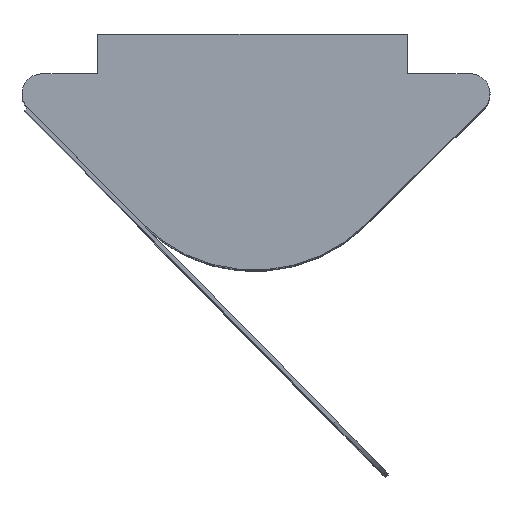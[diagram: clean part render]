
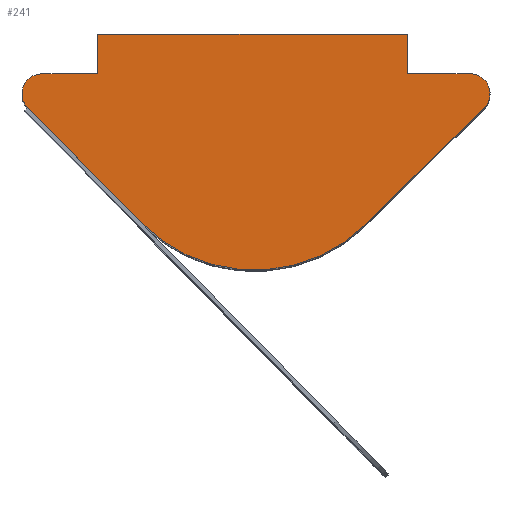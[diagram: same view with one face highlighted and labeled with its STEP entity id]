
A CAD part, top view. The second image highlights one B-rep face of the part: STEP entity #241.
In plain terms, the highlighted planar face has unit normal (0, 0, 1).
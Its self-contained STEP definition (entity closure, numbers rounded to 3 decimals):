
#15 = AXIS2_PLACEMENT_3D ( 'NONE', #2862, #2515, #2154 ) ;
#16 = CARTESIAN_POINT ( 'NONE',  ( -5.306, 6.1, 11. ) ) ;
#23 = DIRECTION ( 'NONE',  ( 0., 0., -1. ) ) ;
#117 = AXIS2_PLACEMENT_3D ( 'NONE', #1457, #1112, #753 ) ;
#157 = CIRCLE ( 'NONE', #15, 0.5 ) ;
#241 = ADVANCED_FACE ( 'NONE', ( #2844 ), #1805, .F. ) ;
#250 = EDGE_CURVE ( 'NONE', #1117, #945, #1011, .T. ) ;
#261 = AXIS2_PLACEMENT_3D ( 'NONE', #1088, #729, #376 ) ;
#301 = DIRECTION ( 'NONE',  ( 0., 1., 0. ) ) ;
#331 = VECTOR ( 'NONE', #778, 1000. ) ;
#356 = ORIENTED_EDGE ( 'NONE', *, *, #2499, .T. ) ;
#376 = DIRECTION ( 'NONE',  ( -1., 0., 0. ) ) ;
#388 = CARTESIAN_POINT ( 'NONE',  ( 0., 0., 11. ) ) ;
#412 = ORIENTED_EDGE ( 'NONE', *, *, #1572, .T. ) ;
#437 = ORIENTED_EDGE ( 'NONE', *, *, #2929, .T. ) ;
#497 = VERTEX_POINT ( 'NONE', #3253 ) ;
#505 = DIRECTION ( 'NONE',  ( -1., 0., 0. ) ) ;
#531 = EDGE_CURVE ( 'NONE', #759, #1853, #2374, .T. ) ;
#608 = VECTOR ( 'NONE', #505, 1000. ) ;
#623 = CARTESIAN_POINT ( 'NONE',  ( -5.662, 5.749, 11. ) ) ;
#661 = CARTESIAN_POINT ( 'NONE',  ( -3.9, 6.6, 11. ) ) ;
#718 = CARTESIAN_POINT ( 'NONE',  ( 3.9, 6.6, 11. ) ) ;
#729 = DIRECTION ( 'NONE',  ( 0., 0., 1. ) ) ;
#750 = EDGE_CURVE ( 'NONE', #945, #1146, #1141, .T. ) ;
#753 = DIRECTION ( 'NONE',  ( -1., 0., 0. ) ) ;
#759 = VERTEX_POINT ( 'NONE', #623 ) ;
#778 = DIRECTION ( 'NONE',  ( -1., 0., 0. ) ) ;
#780 = VECTOR ( 'NONE', #2559, 1000. ) ;
#783 = VERTEX_POINT ( 'NONE', #890 ) ;
#863 = CARTESIAN_POINT ( 'NONE',  ( -3.9, 6.6, 11. ) ) ;
#890 = CARTESIAN_POINT ( 'NONE',  ( -5.806, 6.1, 11. ) ) ;
#922 = VECTOR ( 'NONE', #1520, 1000. ) ;
#933 = CARTESIAN_POINT ( 'NONE',  ( 3.9, 7.6, 11. ) ) ;
#945 = VERTEX_POINT ( 'NONE', #3232 ) ;
#1011 = LINE ( 'NONE', #661, #3020 ) ;
#1057 = DIRECTION ( 'NONE',  ( 1., 0., 0. ) ) ;
#1075 = VECTOR ( 'NONE', #1662, 1000. ) ;
#1077 = AXIS2_PLACEMENT_3D ( 'NONE', #388, #23, #3146 ) ;
#1088 = CARTESIAN_POINT ( 'NONE',  ( 0.043, 5.657, 11. ) ) ;
#1112 = DIRECTION ( 'NONE',  ( 0., 0., 1. ) ) ;
#1117 = VERTEX_POINT ( 'NONE', #1369 ) ;
#1137 = CARTESIAN_POINT ( 'NONE',  ( 6.702, 6.6, 11. ) ) ;
#1141 = LINE ( 'NONE', #1407, #2423 ) ;
#1146 = VERTEX_POINT ( 'NONE', #933 ) ;
#1161 = CARTESIAN_POINT ( 'NONE',  ( -2.807, 2.85, 11. ) ) ;
#1216 = LINE ( 'NONE', #863, #608 ) ;
#1369 = CARTESIAN_POINT ( 'NONE',  ( -3.9, 6.6, 11. ) ) ;
#1407 = CARTESIAN_POINT ( 'NONE',  ( -3.9, 7.6, 11. ) ) ;
#1408 = ORIENTED_EDGE ( 'NONE', *, *, #1585, .T. ) ;
#1457 = CARTESIAN_POINT ( 'NONE',  ( -5.306, 6.1, 11. ) ) ;
#1484 = LINE ( 'NONE', #1137, #331 ) ;
#1520 = DIRECTION ( 'NONE',  ( 0.712, 0.702, 0. ) ) ;
#1521 = CIRCLE ( 'NONE', #261, 4. ) ;
#1527 = ORIENTED_EDGE ( 'NONE', *, *, #250, .F. ) ;
#1572 = EDGE_CURVE ( 'NONE', #2536, #497, #2238, .T. ) ;
#1585 = EDGE_CURVE ( 'NONE', #497, #2125, #157, .T. ) ;
#1605 = ORIENTED_EDGE ( 'NONE', *, *, #1923, .T. ) ;
#1662 = DIRECTION ( 'NONE',  ( 0.702, -0.712, 0. ) ) ;
#1772 = EDGE_LOOP ( 'NONE', ( #412, #1408, #2322, #2497, #2318, #1527, #356, #1605, #3111, #2217, #437 ) ) ;
#1805 = PLANE ( 'NONE',  #1077 ) ;
#1853 = VERTEX_POINT ( 'NONE', #1161 ) ;
#1879 = CARTESIAN_POINT ( 'NONE',  ( 0., 0., 11. ) ) ;
#1923 = EDGE_CURVE ( 'NONE', #3361, #783, #3363, .T. ) ;
#1987 = EDGE_CURVE ( 'NONE', #2125, #2210, #1484, .T. ) ;
#2016 = CARTESIAN_POINT ( 'NONE',  ( -6.5, 6.6, 11. ) ) ;
#2125 = VERTEX_POINT ( 'NONE', #2662 ) ;
#2154 = DIRECTION ( 'NONE',  ( -1., 0., 0. ) ) ;
#2203 = CARTESIAN_POINT ( 'NONE',  ( 2.85, 2.807, 11. ) ) ;
#2210 = VERTEX_POINT ( 'NONE', #718 ) ;
#2217 = ORIENTED_EDGE ( 'NONE', *, *, #531, .T. ) ;
#2238 = LINE ( 'NONE', #1879, #922 ) ;
#2312 = CIRCLE ( 'NONE', #117, 0.5 ) ;
#2318 = ORIENTED_EDGE ( 'NONE', *, *, #750, .F. ) ;
#2322 = ORIENTED_EDGE ( 'NONE', *, *, #1987, .T. ) ;
#2374 = LINE ( 'NONE', #2016, #1075 ) ;
#2400 = EDGE_CURVE ( 'NONE', #783, #759, #2312, .T. ) ;
#2423 = VECTOR ( 'NONE', #1057, 1000. ) ;
#2497 = ORIENTED_EDGE ( 'NONE', *, *, #2519, .T. ) ;
#2499 = EDGE_CURVE ( 'NONE', #1117, #3361, #1216, .T. ) ;
#2515 = DIRECTION ( 'NONE',  ( 0., 0., 1. ) ) ;
#2519 = EDGE_CURVE ( 'NONE', #2210, #1146, #3269, .T. ) ;
#2536 = VERTEX_POINT ( 'NONE', #2203 ) ;
#2559 = DIRECTION ( 'NONE',  ( 0., 1., 0. ) ) ;
#2662 = CARTESIAN_POINT ( 'NONE',  ( 5.481, 6.6, 11. ) ) ;
#2785 = DIRECTION ( 'NONE',  ( -1., 0., 0. ) ) ;
#2844 = FACE_OUTER_BOUND ( 'NONE', #1772, .T. ) ;
#2862 = CARTESIAN_POINT ( 'NONE',  ( 5.481, 6.1, 11. ) ) ;
#2909 = CARTESIAN_POINT ( 'NONE',  ( 3.9, 6.6, 11. ) ) ;
#2929 = EDGE_CURVE ( 'NONE', #1853, #2536, #1521, .T. ) ;
#3020 = VECTOR ( 'NONE', #301, 1000. ) ;
#3068 = AXIS2_PLACEMENT_3D ( 'NONE', #16, #3138, #2785 ) ;
#3111 = ORIENTED_EDGE ( 'NONE', *, *, #2400, .T. ) ;
#3138 = DIRECTION ( 'NONE',  ( 0., 0., 1. ) ) ;
#3146 = DIRECTION ( 'NONE',  ( -1., 0., 0. ) ) ;
#3232 = CARTESIAN_POINT ( 'NONE',  ( -3.9, 7.6, 11. ) ) ;
#3253 = CARTESIAN_POINT ( 'NONE',  ( 5.832, 5.744, 11. ) ) ;
#3269 = LINE ( 'NONE', #2909, #780 ) ;
#3359 = CARTESIAN_POINT ( 'NONE',  ( -5.306, 6.6, 11. ) ) ;
#3361 = VERTEX_POINT ( 'NONE', #3359 ) ;
#3363 = CIRCLE ( 'NONE', #3068, 0.5 ) ;
